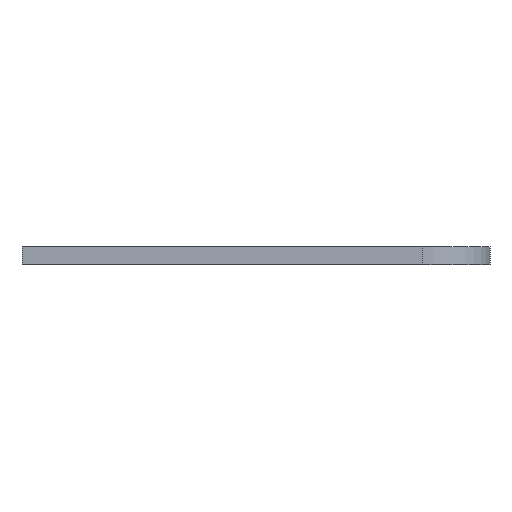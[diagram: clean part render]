
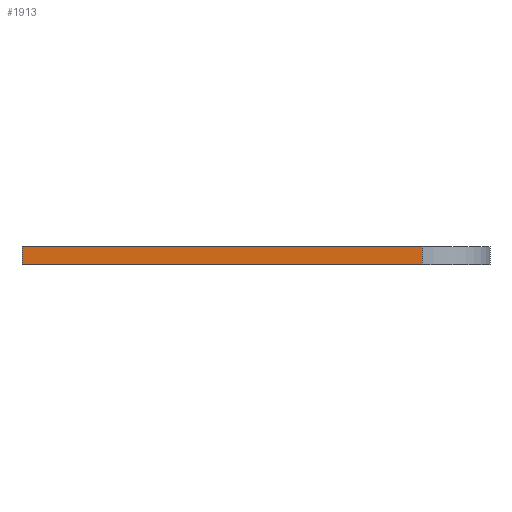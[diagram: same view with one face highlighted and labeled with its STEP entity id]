
A CAD part, front view. The second image highlights one B-rep face of the part: STEP entity #1913.
In plain terms, the highlighted planar face has unit normal (0, -1, 0).
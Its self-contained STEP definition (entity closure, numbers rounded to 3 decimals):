
#125=FACE_OUTER_BOUND('',#231,.T.);
#231=EDGE_LOOP('',(#1597,#1598,#1599,#1600));
#409=LINE('',#2792,#669);
#414=LINE('',#2804,#674);
#492=LINE('',#2964,#752);
#493=LINE('',#2965,#753);
#669=VECTOR('',#2294,10.);
#674=VECTOR('',#2305,10.);
#752=VECTOR('',#2431,10.);
#753=VECTOR('',#2432,10.);
#882=VERTEX_POINT('',#2789);
#883=VERTEX_POINT('',#2791);
#887=VERTEX_POINT('',#2803);
#945=VERTEX_POINT('',#2963);
#1106=EDGE_CURVE('',#882,#883,#409,.T.);
#1112=EDGE_CURVE('',#887,#883,#414,.T.);
#1192=EDGE_CURVE('',#945,#882,#492,.T.);
#1193=EDGE_CURVE('',#887,#945,#493,.T.);
#1597=ORIENTED_EDGE('',*,*,#1106,.F.);
#1598=ORIENTED_EDGE('',*,*,#1192,.F.);
#1599=ORIENTED_EDGE('',*,*,#1193,.F.);
#1600=ORIENTED_EDGE('',*,*,#1112,.T.);
#1823=PLANE('',#2030);
#1913=ADVANCED_FACE('',(#125),#1823,.T.);
#2030=AXIS2_PLACEMENT_3D('',#2962,#2429,#2430);
#2294=DIRECTION('',(0.,0.,-1.));
#2305=DIRECTION('',(1.,0.,0.));
#2429=DIRECTION('center_axis',(0.,-1.,0.));
#2430=DIRECTION('ref_axis',(1.,0.,0.));
#2431=DIRECTION('',(1.,0.,0.));
#2432=DIRECTION('',(0.,0.,1.));
#2789=CARTESIAN_POINT('',(70.,-210.,8.));
#2791=CARTESIAN_POINT('',(70.,-210.,0.));
#2792=CARTESIAN_POINT('',(70.,-210.,0.));
#2803=CARTESIAN_POINT('',(-108.,-210.,0.));
#2804=CARTESIAN_POINT('',(-108.,-210.,0.));
#2962=CARTESIAN_POINT('Origin',(-108.,-210.,0.));
#2963=CARTESIAN_POINT('',(-108.,-210.,8.));
#2964=CARTESIAN_POINT('',(-108.,-210.,8.));
#2965=CARTESIAN_POINT('',(-108.,-210.,0.));
